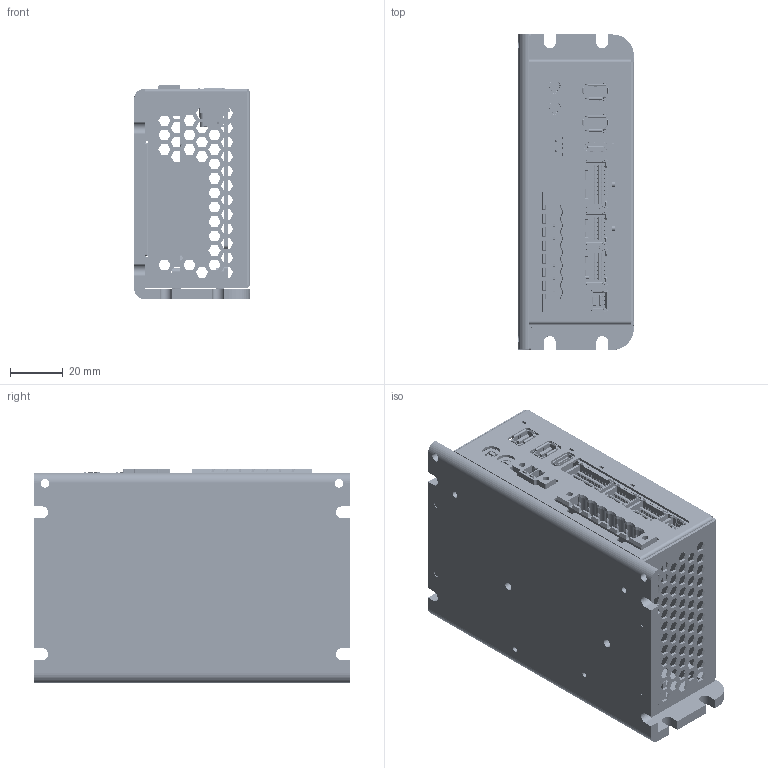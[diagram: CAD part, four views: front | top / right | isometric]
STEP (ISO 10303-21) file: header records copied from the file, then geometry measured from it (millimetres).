
FILE_DESCRIPTION (( 'STEP AP203' ), '1' );
FILE_NAME ('P-BAS_ECAT_L-SHAPE.STEP', '2024-06-10T11:46:30', ( '' ), ( '' ), 'SwSTEP 2.0', 'SolidWorks 2022', '' );
FILE_SCHEMA (( 'CONFIG_CONTROL_DESIGN' ));
Length unit declared in the file: millimetre
Products named in the file (1): P-BAS_ECAT_L-SHAPE
Bounding box: 44 x 120 x 81.5 mm (x, y, z)
Volume: 100370.4 mm3; surface area: 106638.3 mm2
Topology: 27 solids, 27 shells, 10351 faces, 29140 edges, 19165 vertices
Faces by surface type: plane 7825, cylinder 1689, bspline 745, cone 52, sphere 40
Full cylindrical faces by diameter (mm): 0.4 x14, 0.457 x1, 0.5 x8, 0.55 x2, 0.6 x80, 0.635 x14, 0.65 x14, 0.71 x70, 0.8 x12, 0.9 x4, 1 x33, 1.02 x12, 1.2 x6, 1.25 x2, 1.3 x8, 1.4 x7, 1.6 x1, 2.05 x2, 2.146 x2, 2.261 x4, 2.5 x8, 2.845 x4, 3.2 x2, 3.3 x4, 3.34 x2, 3.4 x8, 3.81 x4, 4.851 x4, 6.2 x2, 6.3 x2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
Entity records: 355316 total; most frequent: CARTESIAN_POINT 91823, ORIENTED_EDGE 57220, DIRECTION 49109, EDGE_CURVE 28610, VECTOR 23353, LINE 23353, VERTEX_POINT 19018, AXIS2_PLACEMENT_3D 12878
